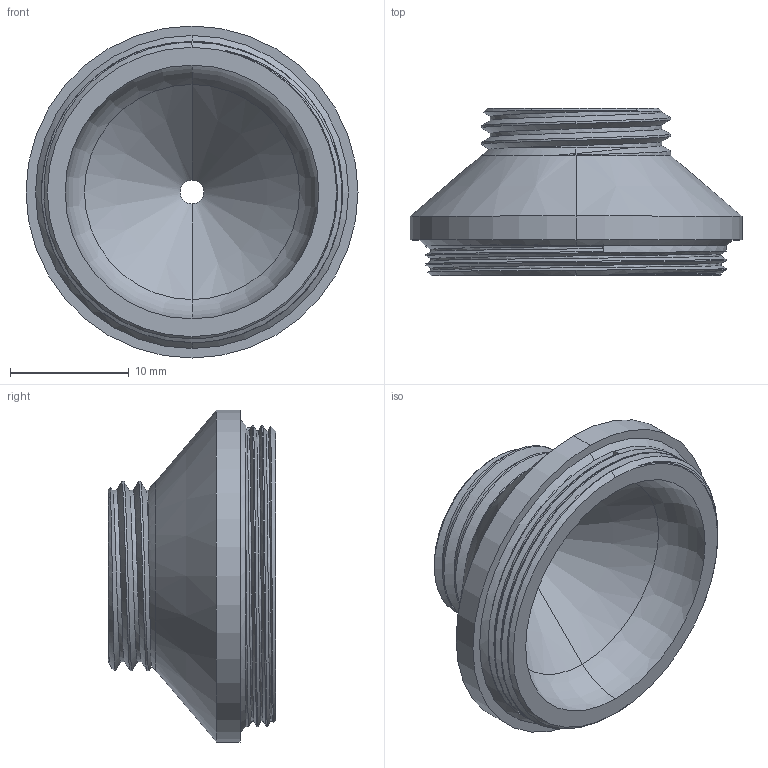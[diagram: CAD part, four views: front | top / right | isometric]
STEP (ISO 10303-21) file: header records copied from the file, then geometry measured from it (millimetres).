
FILE_DESCRIPTION (( 'STEP AP214' ), '1' );
FILE_NAME ('disposable-lens-body-[C-mount]-(apertureD=2mm).STEP', '2024-11-17T04:31:35', ( '' ), ( '' ), '' );
FILE_SCHEMA (( 'AUTOMOTIVE_DESIGN' ));
Length unit declared in the file: millimetre
Products named in the file (1): disposable-lens-body-[C-mount-F-mount]-(apertureD=2mm)
Bounding box: 28 x 14.1 x 28 mm (x, y, z)
Volume: 3227.1 mm3; surface area: 2419.3 mm2
Topology: 1 solids, 1 shells, 49 faces, 124 edges, 79 vertices
Faces by surface type: cylinder 17, cone 12, bspline 12, plane 6, torus 2
Entity records: 5598 total; most frequent: CARTESIAN_POINT 4558, ORIENTED_EDGE 248, DIRECTION 162, EDGE_CURVE 124, VERTEX_POINT 79, AXIS2_PLACEMENT_3D 68, EDGE_LOOP 53, ADVANCED_FACE 49
